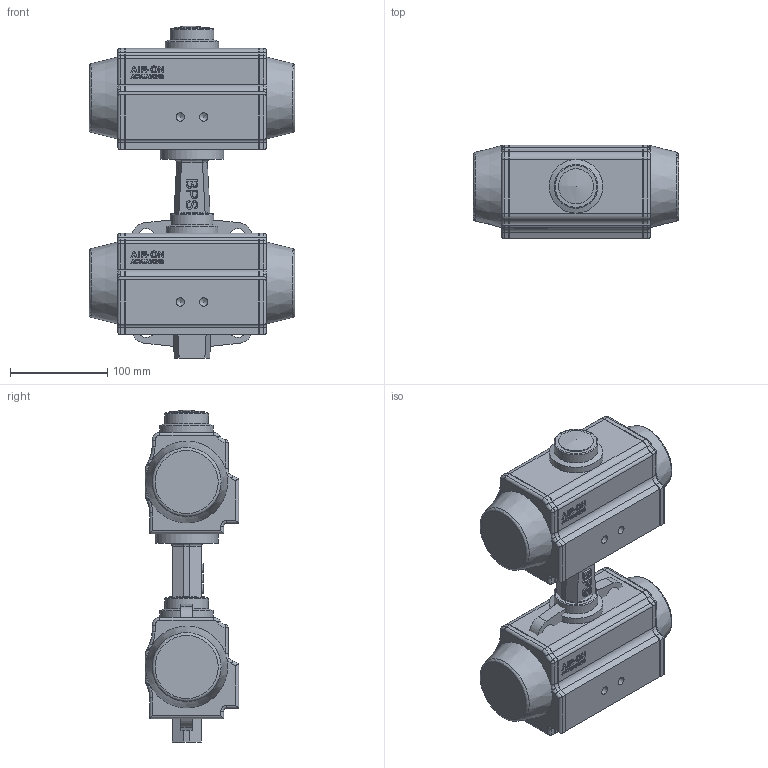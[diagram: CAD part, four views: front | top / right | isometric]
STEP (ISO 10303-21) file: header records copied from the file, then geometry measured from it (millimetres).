
FILE_DESCRIPTION( ( 'Unknown' ), '1' );
FILE_NAME( 'R:/ECCUA/ROOTSI BPS 3D vidinad/Poordklapid Wafer type/Butterfly valve(wafer) with pneumatic actuator BPS/STEP formaat/BPS 2303050PE butterfly valve DN50.stp', 'Unknown', ( 'Unknown' ), ( 'Unknown' ), 'PSStep 10.1', 'Unknown', ' ' );
FILE_SCHEMA( ( 'AUTOMOTIVE_DESIGN { 1 0 10303 214 1 1 1 1 }' ) );
Length unit declared in the file: millimetre
Products named in the file (5): Assem1; Butterfly valve wafer type DN50 BPS var2; BPS 8300075DA-SR pneumatic actuator
Bounding box: 211 x 96 x 341 mm (x, y, z)
Volume: 4157423.8 mm3; surface area: 394476.2 mm2
Topology: 8 solids, 8 shells, 982 faces, 2494 edges, 1608 vertices
Faces by surface type: plane 322, extrusion 286, cylinder 212, bspline 68, torus 58, cone 30, sphere 6
Full cylindrical faces by diameter (mm): 4.917 x8, 6.647 x8, 7 x8, 8.566 x4, 36 x2, 45 x2, 50 x2, 55 x2, 65 x2, 83 x4, 95 x2
Entity records: 23303 total; most frequent: CARTESIAN_POINT 8171, ORIENTED_EDGE 2342, DIRECTION 1983, EDGE_CURVE 1171, VERTEX_POINT 786, VECTOR 729, AXIS2_PLACEMENT_3D 627, EDGE_LOOP 599
